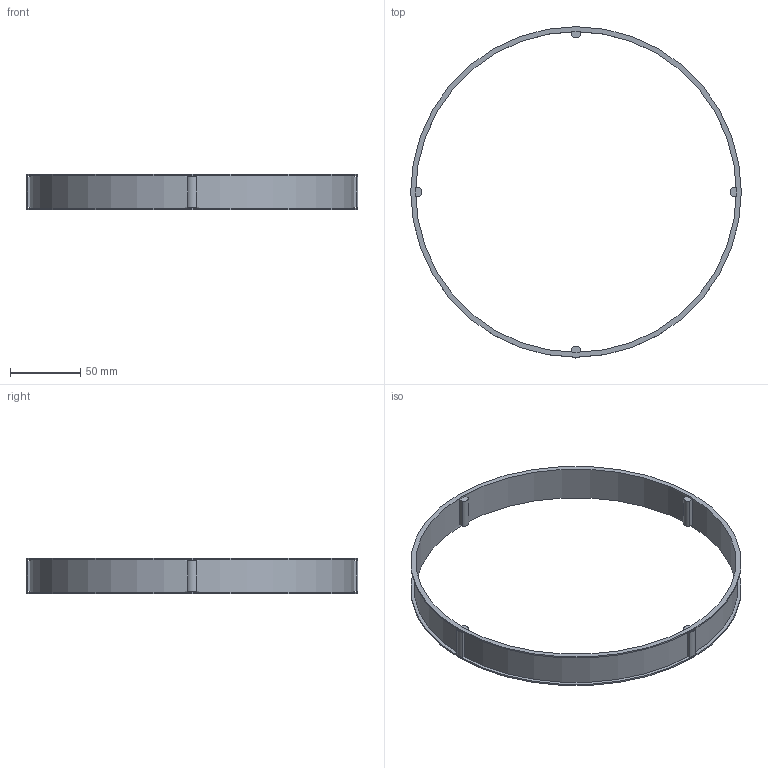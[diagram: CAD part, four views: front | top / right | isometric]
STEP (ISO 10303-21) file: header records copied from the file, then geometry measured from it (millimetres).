
FILE_DESCRIPTION(/* description */ (''),/* implementation_level */ '2;1');
FILE_NAME(/* name */ '306148 FE 8220 Z 25.stp',/* time_stamp */ '2016-11-10T10:39:53+01:00',/* author */ (''),/* organization */ (''),/* preprocessor_version */ 'ST-DEVELOPER v15',/* originating_system */ 'SIEMENS PLM Software NX 8.5',/* authorisation */ '');
FILE_SCHEMA (('CONFIG_CONTROL_DESIGN'));
Length unit declared in the file: millimetre
Products named in the file (1): ATE0000097_01
Bounding box: 236.66 x 236.66 x 25 mm (x, y, z)
Volume: 25152.7 mm3; surface area: 46152 mm2
Topology: 1 solids, 1 shells, 48 faces, 114 edges, 76 vertices
Faces by surface type: plane 36, cylinder 12
Full cylindrical faces by diameter (mm): 228.66 x1, 230.66 x1, 235.66 x2
Entity records: 1420 total; most frequent: DIRECTION 242, CARTESIAN_POINT 225, ORIENTED_EDGE 208, EDGE_CURVE 104, AXIS2_PLACEMENT_3D 89, VERTEX_POINT 72, LINE 64, VECTOR 64
